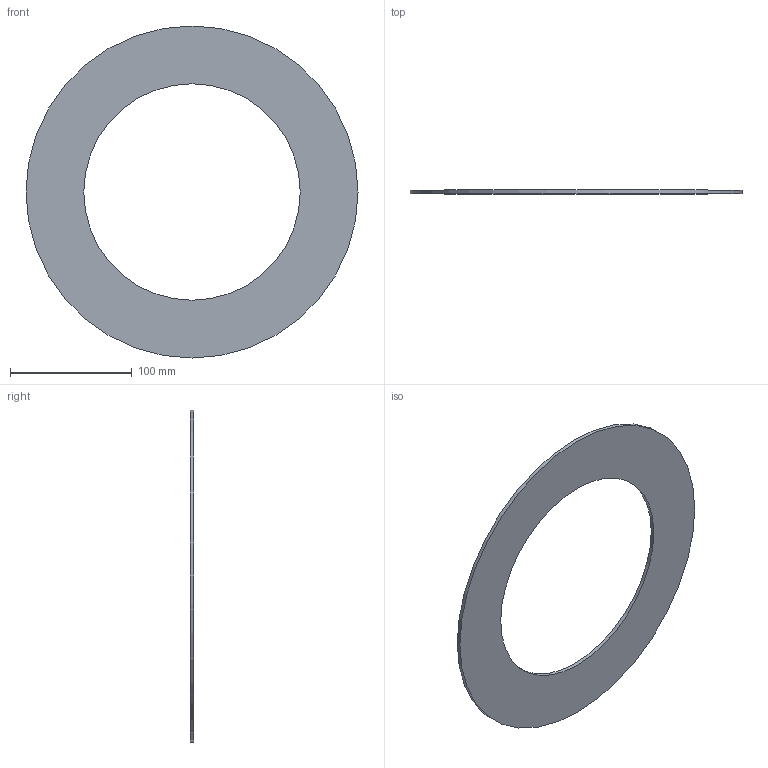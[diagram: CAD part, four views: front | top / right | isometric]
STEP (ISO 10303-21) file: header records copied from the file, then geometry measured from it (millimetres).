
FILE_DESCRIPTION(/* description */ ('Unknown'),/* implementation_level */ '2;1');
FILE_NAME(/* name */ 'GUA.200B',/* time_stamp */ '2021-04-01T12:29:10+02:00',/* author */ ('Unknown'),/* organization */ ('Unknown'),/* preprocessor_version */ 'ST-DEVELOPER v16.7',/* originating_system */ 'Solid Edge',/* authorisation */ 'Unknown');
FILE_SCHEMA (('AUTOMOTIVE_DESIGN {1 0 10303 214 3 1 1}'));
Length unit declared in the file: millimetre
Products named in the file (1): GUA.200B
Bounding box: 273 x 3 x 273 mm (x, y, z)
Volume: 100951.2 mm3; surface area: 71551.3 mm2
Topology: 1 solids, 1 shells, 4 faces, 6 edges, 4 vertices
Faces by surface type: cylinder 2, plane 2
Full cylindrical faces by diameter (mm): 178 x1, 273 x1
Entity records: 118 total; most frequent: DIRECTION 18, CARTESIAN_POINT 13, AXIS2_PLACEMENT_3D 9, ORIENTED_EDGE 8, EDGE_LOOP 8, FACE_BOUND 8, EDGE_CURVE 4, VERTEX_POINT 4
